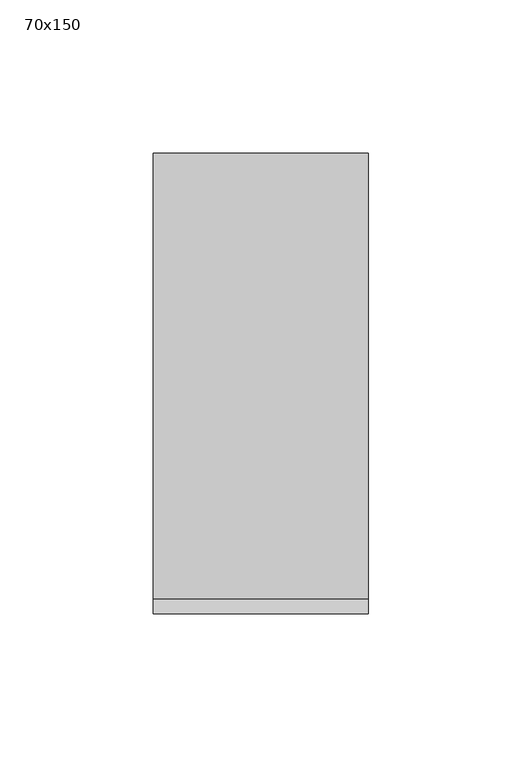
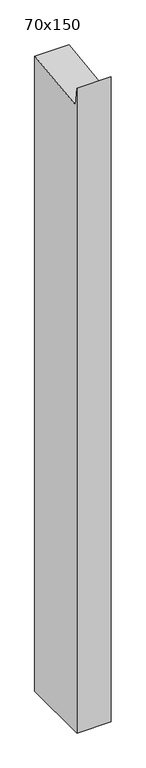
"""IFC4 building model written with IfcOpenShell, lengths in millimetres: member geometry, 長方形のマリオン : 70x150."""

from ifc_helpers import new_model, si_unit, frame, origin, place, context, project, spatial, polyline, outline, extrude, source, transform, mapped, element, save


def member_70x150_a3f77bd3(model_context):
    return source(origin(), model_context, "Body", "SweptSolid", [
        extrude(outline(polyline([(-75.0, 30.4253619), (-70.1901706, -8.8558999), (75.0, 8.9220411), (75.0, -1369.5325401), (-75.0, -1369.5325401), (-75.0, 30.4253619)])), frame((-70.0, 0.0, 0.0), z_axis=(1.0, 0.0, 0.0), x_axis=(0.0, 1.0, 0.0)), (0.0, 0.0, 1.0), 70.0),
    ])


if __name__ == "__main__":
    model = new_model("IFC4")
    model_context = context("Model", 3, world=origin())
    ifc_project = project(units=[si_unit("LENGTHUNIT", "METRE", prefix="MILLI")], contexts=[model_context])
    site = spatial("IfcSite", under=ifc_project)
    building = spatial("IfcBuilding", under=site)
    placement = place(None, origin())
    member_70x150_shape = member_70x150_a3f77bd3(model_context)
    element("IfcMember", 1, ObjectType="長方形のマリオン : 70x150", at=placement, inside=building, context=model_context, shape_type="MappedRepresentation", body=[
        mapped(member_70x150_shape, transform((0.0, 0.0, 0.0), x_axis=(1.0, 0.0, 0.0), y_axis=(0.0, 1.0, 0.0), z_axis=(0.0, 0.0, 1.0))),
    ])
    save(model, "model.ifc")
